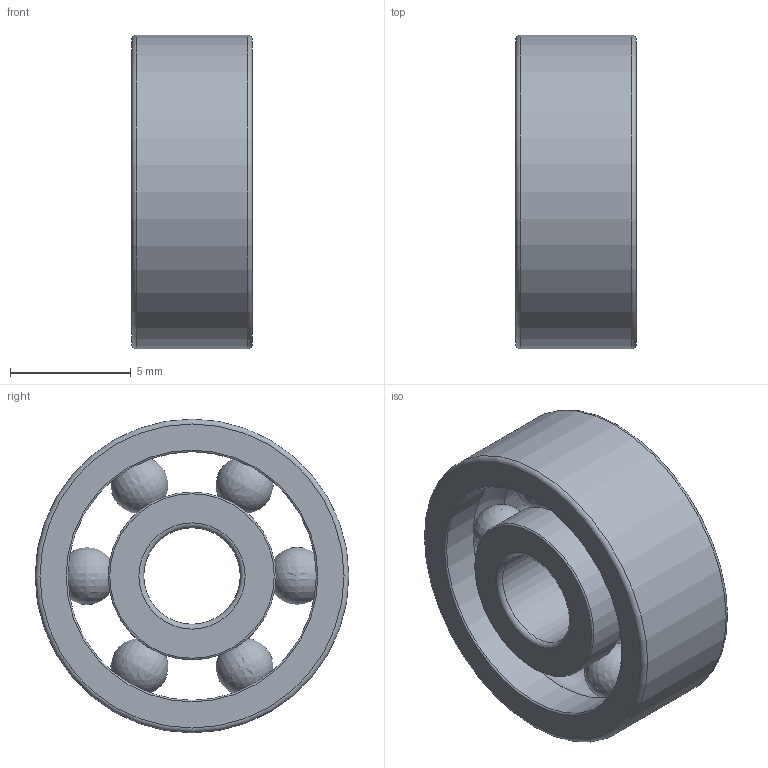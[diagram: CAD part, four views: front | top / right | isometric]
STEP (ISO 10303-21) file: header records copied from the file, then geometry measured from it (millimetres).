
FILE_DESCRIPTION(/* description */ (''),/* implementation_level */ '2;1');
FILE_NAME(/* name */ 'C:\MOJE SUBORY\624\624.stp',/* time_stamp */ '2022-05-10T08:27:30+02:00',/* author */ ('OUPIONTEKM'),/* organization */ (''),/* preprocessor_version */ 'ST-DEVELOPER v19',/* originating_system */ 'Autodesk Inventor 2023',/* authorisation */ '');
FILE_SCHEMA (('AUTOMOTIVE_DESIGN { 1 0 10303 214 3 1 1 }'));
Length unit declared in the file: millimetre
Products named in the file (4): 624; IR_624_ZVL; OR_624_ZVL; KUGEL
Assembly tree (8 placements, depth 2):
  624
    IR_624_ZVL
    OR_624_ZVL
    KUGEL  x6
Bounding box: 5 x 13 x 13 mm (x, y, z)
Volume: 392 mm3; surface area: 793.7 mm2
Topology: 8 solids, 8 shells, 26 faces, 66 edges, 44 vertices
Faces by surface type: torus 10, cylinder 6, sphere 6, plane 4
Full cylindrical faces by diameter (mm): 4 x1, 6.95 x2, 10.3 x2, 13 x1
Entity records: 837 total; most frequent: DIRECTION 158, CARTESIAN_POINT 116, ORIENTED_EDGE 98, AXIS2_PLACEMENT_3D 76, EDGE_CURVE 49, CIRCLE 43, VERTEX_POINT 34, EDGE_LOOP 25
